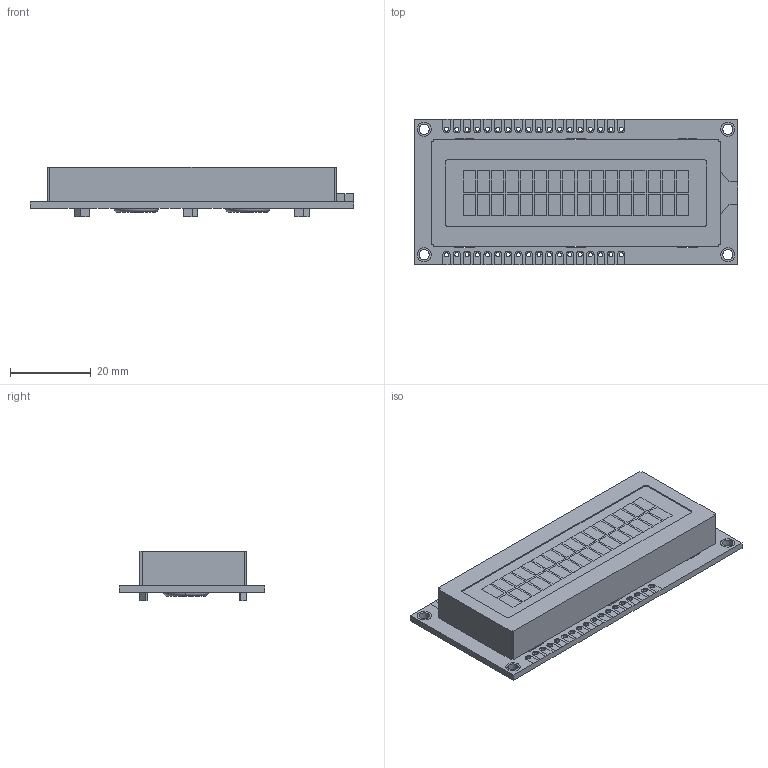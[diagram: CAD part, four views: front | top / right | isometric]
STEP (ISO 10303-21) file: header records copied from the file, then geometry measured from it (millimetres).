
FILE_DESCRIPTION (( 'STEP AP214' ), '1' );
FILE_NAME ('NHD-0216K1Z-FS(RGB)-FBW-rev1.STEP', '2017-07-20T15:05:59', ( '' ), ( '' ), 'SwSTEP 2.0', 'SolidWorks 2017', '' );
FILE_SCHEMA (( 'AUTOMOTIVE_DESIGN' ));
Length unit declared in the file: millimetre
Products named in the file (1): NHD-0216K1Z-FS(RGB)-FBW-rev1
Bounding box: 80 x 36 x 12.3 mm (x, y, z)
Volume: 20566.4 mm3; surface area: 12095.5 mm2
Topology: 14 solids, 14 shells, 725 faces, 1962 edges, 1308 vertices
Faces by surface type: plane 525, cylinder 196, torus 4
Entity records: 29250 total; most frequent: CARTESIAN_POINT 3996, ORIENTED_EDGE 3924, DIRECTION 3818, EDGE_CURVE 1962, LINE 1558, VECTOR 1558, VERTEX_POINT 1308, AXIS2_PLACEMENT_3D 1130
